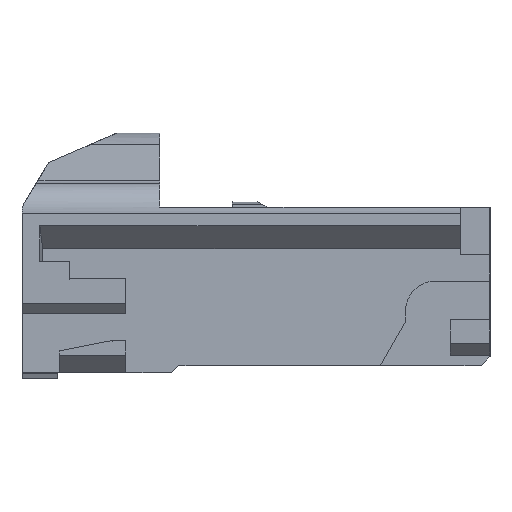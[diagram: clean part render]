
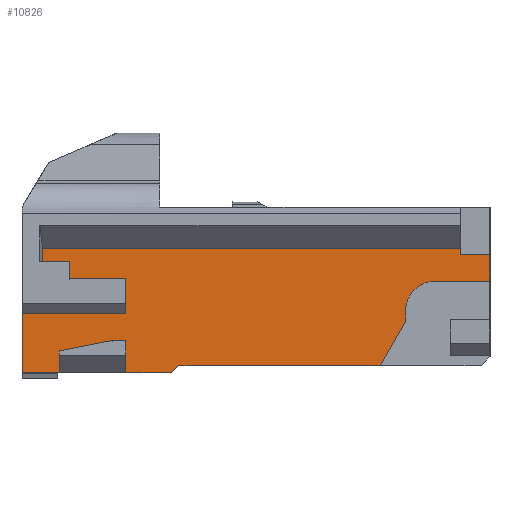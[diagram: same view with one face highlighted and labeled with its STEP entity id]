
A CAD part, front view. The second image highlights one B-rep face of the part: STEP entity #10826.
In plain terms, the highlighted planar face has unit normal (0, -1, 0).
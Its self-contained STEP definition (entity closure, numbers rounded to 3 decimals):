
#10563=AXIS2_PLACEMENT_3D('Circle Axis2P3D',#10561,#10562,$) ;
#10799=AXIS2_PLACEMENT_3D('Plane Axis2P3D',#10796,#10797,#10798) ;
#9974=CARTESIAN_POINT('Vertex',(-1.,-16.8,3.95)) ;
#9977=CARTESIAN_POINT('Line Origine',(-1.,-16.8,3.85)) ;
#9981=CARTESIAN_POINT('Vertex',(-1.,-16.8,3.75)) ;
#10008=CARTESIAN_POINT('Vertex',(-15.1,-16.8,3.95)) ;
#10011=CARTESIAN_POINT('Line Origine',(-8.05,-16.8,3.95)) ;
#10032=CARTESIAN_POINT('Vertex',(-15.1,-16.8,3.51)) ;
#10035=CARTESIAN_POINT('Line Origine',(-15.1,-16.8,2.035)) ;
#10047=CARTESIAN_POINT('Line Origine',(-14.65,-16.8,3.51)) ;
#10051=CARTESIAN_POINT('Vertex',(-14.2,-16.8,3.51)) ;
#10066=CARTESIAN_POINT('Line Origine',(-14.2,-16.8,3.126)) ;
#10070=CARTESIAN_POINT('Vertex',(-14.2,-16.8,2.742)) ;
#10094=CARTESIAN_POINT('Vertex',(-12.3,-16.8,2.742)) ;
#10097=CARTESIAN_POINT('Line Origine',(-13.25,-16.8,2.742)) ;
#10109=CARTESIAN_POINT('Line Origine',(-12.3,-16.8,2.246)) ;
#10113=CARTESIAN_POINT('Vertex',(-12.3,-16.8,1.75)) ;
#10137=CARTESIAN_POINT('Vertex',(-15.8,-16.8,1.75)) ;
#10140=CARTESIAN_POINT('Line Origine',(-14.05,-16.8,1.75)) ;
#10161=CARTESIAN_POINT('Vertex',(-15.8,-16.8,-0.25)) ;
#10164=CARTESIAN_POINT('Line Origine',(-15.8,-16.8,0.75)) ;
#10329=CARTESIAN_POINT('Vertex',(-14.55,-16.8,-0.25)) ;
#10336=CARTESIAN_POINT('Vertex',(-14.55,-16.8,0.316)) ;
#10339=CARTESIAN_POINT('Line Origine',(-14.55,-16.8,0.033)) ;
#10360=CARTESIAN_POINT('Vertex',(-12.732,-16.8,0.669)) ;
#10363=CARTESIAN_POINT('Line Origine',(-13.767,-16.8,0.468)) ;
#10384=CARTESIAN_POINT('Vertex',(-12.3,-16.8,0.669)) ;
#10387=CARTESIAN_POINT('Line Origine',(-12.375,-16.8,0.669)) ;
#10403=CARTESIAN_POINT('Vertex',(-12.3,-16.8,-0.25)) ;
#10406=CARTESIAN_POINT('Line Origine',(-12.3,-16.8,0.21)) ;
#10424=CARTESIAN_POINT('Line Origine',(-15.175,-16.8,-0.25)) ;
#10433=CARTESIAN_POINT('Vertex',(-10.75,-16.8,-0.25)) ;
#10436=CARTESIAN_POINT('Line Origine',(-11.525,-16.8,-0.25)) ;
#10469=CARTESIAN_POINT('Line Origine',(-10.625,-16.8,-0.125)) ;
#10473=CARTESIAN_POINT('Vertex',(-10.5,-16.8,0.)) ;
#10497=CARTESIAN_POINT('Vertex',(-3.7,-16.8,0.)) ;
#10500=CARTESIAN_POINT('Line Origine',(-7.1,-16.8,0.)) ;
#10516=CARTESIAN_POINT('Line Origine',(-3.275,-16.8,0.75)) ;
#10520=CARTESIAN_POINT('Vertex',(-2.85,-16.8,1.5)) ;
#10539=CARTESIAN_POINT('Vertex',(-2.85,-16.8,1.85)) ;
#10542=CARTESIAN_POINT('Line Origine',(-2.85,-16.8,1.675)) ;
#10558=CARTESIAN_POINT('Vertex',(-1.85,-16.8,2.85)) ;
#10561=CARTESIAN_POINT('Axis2P3D Location',(-1.85,-16.8,1.85)) ;
#10577=CARTESIAN_POINT('Vertex',(0.,-16.8,2.85)) ;
#10580=CARTESIAN_POINT('Line Origine',(-0.925,-16.8,2.85)) ;
#10601=CARTESIAN_POINT('Vertex',(0.,-16.8,3.75)) ;
#10604=CARTESIAN_POINT('Line Origine',(0.,-16.8,3.3)) ;
#10784=CARTESIAN_POINT('Line Origine',(-0.5,-16.8,3.75)) ;
#10796=CARTESIAN_POINT('Axis2P3D Location',(0.,-16.8,3.95)) ;
#9978=DIRECTION('Vector Direction',(0.,0.,-1.)) ;
#10012=DIRECTION('Vector Direction',(-1.,0.,0.)) ;
#10036=DIRECTION('Vector Direction',(0.,0.,-1.)) ;
#10048=DIRECTION('Vector Direction',(1.,0.,0.)) ;
#10067=DIRECTION('Vector Direction',(0.,0.,1.)) ;
#10098=DIRECTION('Vector Direction',(-1.,0.,0.)) ;
#10110=DIRECTION('Vector Direction',(0.,0.,1.)) ;
#10141=DIRECTION('Vector Direction',(-1.,0.,0.)) ;
#10165=DIRECTION('Vector Direction',(0.,0.,-1.)) ;
#10340=DIRECTION('Vector Direction',(0.,0.,1.)) ;
#10364=DIRECTION('Vector Direction',(0.982,0.,0.191)) ;
#10388=DIRECTION('Vector Direction',(1.,0.,0.)) ;
#10407=DIRECTION('Vector Direction',(0.,0.,-1.)) ;
#10425=DIRECTION('Vector Direction',(-1.,0.,0.)) ;
#10437=DIRECTION('Vector Direction',(-1.,0.,0.)) ;
#10470=DIRECTION('Vector Direction',(0.707,0.,0.707)) ;
#10501=DIRECTION('Vector Direction',(1.,0.,0.)) ;
#10517=DIRECTION('Vector Direction',(-0.493,0.,-0.87)) ;
#10543=DIRECTION('Vector Direction',(0.,0.,-1.)) ;
#10562=DIRECTION('Axis2P3D Direction',(0.,1.,-0.)) ;
#10581=DIRECTION('Vector Direction',(-1.,0.,0.)) ;
#10605=DIRECTION('Vector Direction',(0.,0.,1.)) ;
#10785=DIRECTION('Vector Direction',(1.,0.,0.)) ;
#10797=DIRECTION('Axis2P3D Direction',(0.,-1.,-0.)) ;
#10798=DIRECTION('Axis2P3D XDirection',(0.,0.,-1.)) ;
#9979=VECTOR('Line Direction',#9978,1.) ;
#10013=VECTOR('Line Direction',#10012,1.) ;
#10037=VECTOR('Line Direction',#10036,1.) ;
#10049=VECTOR('Line Direction',#10048,1.) ;
#10068=VECTOR('Line Direction',#10067,1.) ;
#10099=VECTOR('Line Direction',#10098,1.) ;
#10111=VECTOR('Line Direction',#10110,1.) ;
#10142=VECTOR('Line Direction',#10141,1.) ;
#10166=VECTOR('Line Direction',#10165,1.) ;
#10341=VECTOR('Line Direction',#10340,1.) ;
#10365=VECTOR('Line Direction',#10364,1.) ;
#10389=VECTOR('Line Direction',#10388,1.) ;
#10408=VECTOR('Line Direction',#10407,1.) ;
#10426=VECTOR('Line Direction',#10425,1.) ;
#10438=VECTOR('Line Direction',#10437,1.) ;
#10471=VECTOR('Line Direction',#10470,1.) ;
#10502=VECTOR('Line Direction',#10501,1.) ;
#10518=VECTOR('Line Direction',#10517,1.) ;
#10544=VECTOR('Line Direction',#10543,1.) ;
#10582=VECTOR('Line Direction',#10581,1.) ;
#10606=VECTOR('Line Direction',#10605,1.) ;
#10786=VECTOR('Line Direction',#10785,1.) ;
#10802=ORIENTED_EDGE('',*,*,#9983,.F.) ;
#10803=ORIENTED_EDGE('',*,*,#10015,.T.) ;
#10804=ORIENTED_EDGE('',*,*,#10039,.T.) ;
#10805=ORIENTED_EDGE('',*,*,#10053,.T.) ;
#10806=ORIENTED_EDGE('',*,*,#10072,.F.) ;
#10807=ORIENTED_EDGE('',*,*,#10101,.F.) ;
#10808=ORIENTED_EDGE('',*,*,#10115,.F.) ;
#10809=ORIENTED_EDGE('',*,*,#10144,.T.) ;
#10810=ORIENTED_EDGE('',*,*,#10168,.T.) ;
#10811=ORIENTED_EDGE('',*,*,#10428,.F.) ;
#10812=ORIENTED_EDGE('',*,*,#10343,.T.) ;
#10813=ORIENTED_EDGE('',*,*,#10367,.T.) ;
#10814=ORIENTED_EDGE('',*,*,#10391,.T.) ;
#10815=ORIENTED_EDGE('',*,*,#10410,.T.) ;
#10816=ORIENTED_EDGE('',*,*,#10440,.F.) ;
#10817=ORIENTED_EDGE('',*,*,#10475,.T.) ;
#10818=ORIENTED_EDGE('',*,*,#10504,.T.) ;
#10819=ORIENTED_EDGE('',*,*,#10522,.F.) ;
#10820=ORIENTED_EDGE('',*,*,#10546,.F.) ;
#10821=ORIENTED_EDGE('',*,*,#10565,.T.) ;
#10822=ORIENTED_EDGE('',*,*,#10584,.F.) ;
#10823=ORIENTED_EDGE('',*,*,#10608,.T.) ;
#10824=ORIENTED_EDGE('',*,*,#10788,.F.) ;
#10826=ADVANCED_FACE('Upper_body \X2\306E7D50679C\X0\',(#10825),#10800,.T.) ;
#10564=CIRCLE('generated circle',#10563,1.) ;
#9983=EDGE_CURVE('',#9975,#9982,#9980,.T.) ;
#10015=EDGE_CURVE('',#9975,#10009,#10014,.T.) ;
#10039=EDGE_CURVE('',#10009,#10033,#10038,.T.) ;
#10053=EDGE_CURVE('',#10033,#10052,#10050,.T.) ;
#10072=EDGE_CURVE('',#10071,#10052,#10069,.T.) ;
#10101=EDGE_CURVE('',#10095,#10071,#10100,.T.) ;
#10115=EDGE_CURVE('',#10114,#10095,#10112,.T.) ;
#10144=EDGE_CURVE('',#10114,#10138,#10143,.T.) ;
#10168=EDGE_CURVE('',#10138,#10162,#10167,.T.) ;
#10343=EDGE_CURVE('',#10330,#10337,#10342,.T.) ;
#10367=EDGE_CURVE('',#10337,#10361,#10366,.T.) ;
#10391=EDGE_CURVE('',#10361,#10385,#10390,.T.) ;
#10410=EDGE_CURVE('',#10385,#10404,#10409,.T.) ;
#10428=EDGE_CURVE('',#10330,#10162,#10427,.T.) ;
#10440=EDGE_CURVE('',#10434,#10404,#10439,.T.) ;
#10475=EDGE_CURVE('',#10434,#10474,#10472,.T.) ;
#10504=EDGE_CURVE('',#10474,#10498,#10503,.T.) ;
#10522=EDGE_CURVE('',#10521,#10498,#10519,.T.) ;
#10546=EDGE_CURVE('',#10540,#10521,#10545,.T.) ;
#10565=EDGE_CURVE('',#10540,#10559,#10564,.T.) ;
#10584=EDGE_CURVE('',#10578,#10559,#10583,.T.) ;
#10608=EDGE_CURVE('',#10578,#10602,#10607,.T.) ;
#10788=EDGE_CURVE('',#9982,#10602,#10787,.T.) ;
#10801=EDGE_LOOP('',(#10802,#10803,#10804,#10805,#10806,#10807,#10808,#10809,#10810,#10811,#10812,#10813,#10814,#10815,#10816,#10817,#10818,#10819,#10820,#10821,#10822,#10823,#10824)) ;
#10825=FACE_OUTER_BOUND('',#10801,.T.) ;
#9980=LINE('Line',#9977,#9979) ;
#10014=LINE('Line',#10011,#10013) ;
#10038=LINE('Line',#10035,#10037) ;
#10050=LINE('Line',#10047,#10049) ;
#10069=LINE('Line',#10066,#10068) ;
#10100=LINE('Line',#10097,#10099) ;
#10112=LINE('Line',#10109,#10111) ;
#10143=LINE('Line',#10140,#10142) ;
#10167=LINE('Line',#10164,#10166) ;
#10342=LINE('Line',#10339,#10341) ;
#10366=LINE('Line',#10363,#10365) ;
#10390=LINE('Line',#10387,#10389) ;
#10409=LINE('Line',#10406,#10408) ;
#10427=LINE('Line',#10424,#10426) ;
#10439=LINE('Line',#10436,#10438) ;
#10472=LINE('Line',#10469,#10471) ;
#10503=LINE('Line',#10500,#10502) ;
#10519=LINE('Line',#10516,#10518) ;
#10545=LINE('Line',#10542,#10544) ;
#10583=LINE('Line',#10580,#10582) ;
#10607=LINE('Line',#10604,#10606) ;
#10787=LINE('Line',#10784,#10786) ;
#10800=PLANE('',#10799) ;
#9975=VERTEX_POINT('',#9974) ;
#9982=VERTEX_POINT('',#9981) ;
#10009=VERTEX_POINT('',#10008) ;
#10033=VERTEX_POINT('',#10032) ;
#10052=VERTEX_POINT('',#10051) ;
#10071=VERTEX_POINT('',#10070) ;
#10095=VERTEX_POINT('',#10094) ;
#10114=VERTEX_POINT('',#10113) ;
#10138=VERTEX_POINT('',#10137) ;
#10162=VERTEX_POINT('',#10161) ;
#10330=VERTEX_POINT('',#10329) ;
#10337=VERTEX_POINT('',#10336) ;
#10361=VERTEX_POINT('',#10360) ;
#10385=VERTEX_POINT('',#10384) ;
#10404=VERTEX_POINT('',#10403) ;
#10434=VERTEX_POINT('',#10433) ;
#10474=VERTEX_POINT('',#10473) ;
#10498=VERTEX_POINT('',#10497) ;
#10521=VERTEX_POINT('',#10520) ;
#10540=VERTEX_POINT('',#10539) ;
#10559=VERTEX_POINT('',#10558) ;
#10578=VERTEX_POINT('',#10577) ;
#10602=VERTEX_POINT('',#10601) ;
